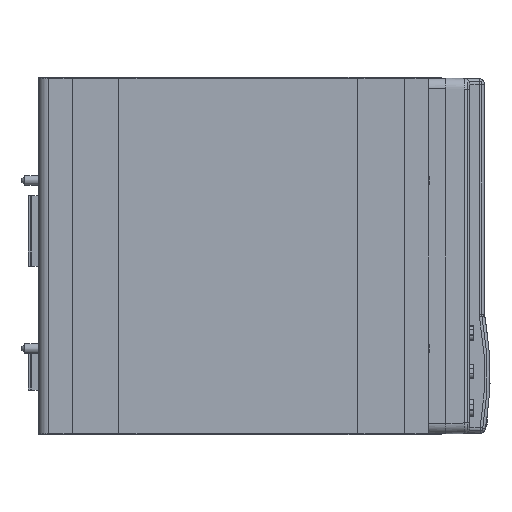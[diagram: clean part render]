
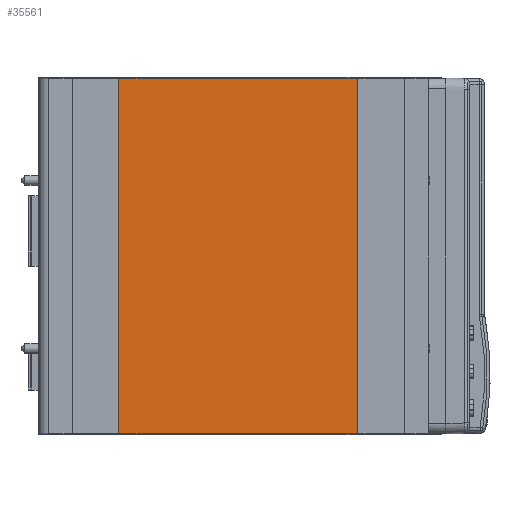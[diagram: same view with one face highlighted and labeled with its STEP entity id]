
A CAD part, front view. The second image highlights one B-rep face of the part: STEP entity #35561.
In plain terms, the highlighted planar face has unit normal (0, -1, 0).
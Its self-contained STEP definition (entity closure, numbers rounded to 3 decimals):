
#9961 = EDGE_LOOP ( 'NONE', ( #31388, #31391, #31390, #31393 ) ) ;
#28996 = EDGE_CURVE ( 'NONE', #40740, #40720, #72994, .T. ) ;
#28997 = EDGE_CURVE ( 'NONE', #40738, #40721, #72997, .T. ) ;
#31388 = ORIENTED_EDGE ( 'NONE', *, *, #28996, .F. ) ;
#31390 = ORIENTED_EDGE ( 'NONE', *, *, #28997, .T. ) ;
#31391 = ORIENTED_EDGE ( 'NONE', *, *, #36627, .F. ) ;
#31393 = ORIENTED_EDGE ( 'NONE', *, *, #36611, .T. ) ;
#35561 = ADVANCED_FACE ( 'NONE', ( #79274 ), #82617, .F. ) ;
#36611 = EDGE_CURVE ( 'NONE', #40721, #40720, #90513, .T. ) ;
#36627 = EDGE_CURVE ( 'NONE', #40738, #40740, #90561, .T. ) ;
#40720 = VERTEX_POINT ( 'NONE', #93689 ) ;
#40721 = VERTEX_POINT ( 'NONE', #93690 ) ;
#40738 = VERTEX_POINT ( 'NONE', #93705 ) ;
#40740 = VERTEX_POINT ( 'NONE', #93706 ) ;
#60267 = VECTOR ( 'NONE', #72996, 1000. ) ;
#60268 = VECTOR ( 'NONE', #72999, 1000. ) ;
#72994 = LINE ( 'NONE', #72995, #60267 ) ;
#72995 = CARTESIAN_POINT ( 'NONE',  ( -80.101, -151.733, -65.329 ) ) ;
#72996 = DIRECTION ( 'NONE',  ( 0., 0., 1. ) ) ;
#72997 = LINE ( 'NONE', #72998, #60268 ) ;
#72998 = CARTESIAN_POINT ( 'NONE',  ( 51.602, -151.733, -65.329 ) ) ;
#72999 = DIRECTION ( 'NONE',  ( 0., 0., 1. ) ) ;
#79274 = FACE_OUTER_BOUND ( 'NONE', #9961, .T. ) ;
#79279 = AXIS2_PLACEMENT_3D ( 'NONE', #82618, #82619, #82620 ) ;
#82617 = PLANE ( 'NONE',  #79279 ) ;
#82618 = CARTESIAN_POINT ( 'NONE',  ( 446.916, -151.733, 130.671 ) ) ;
#82619 = DIRECTION ( 'NONE',  ( 0., 1., 0. ) ) ;
#82620 = DIRECTION ( 'NONE',  ( 0., 0., 1. ) ) ;
#87153 = VECTOR ( 'NONE', #90515, 1000. ) ;
#87170 = VECTOR ( 'NONE', #90563, 1000. ) ;
#90513 = LINE ( 'NONE', #90514, #87153 ) ;
#90514 = CARTESIAN_POINT ( 'NONE',  ( 446.916, -151.733, 130.671 ) ) ;
#90515 = DIRECTION ( 'NONE',  ( -1., 0., 0. ) ) ;
#90561 = LINE ( 'NONE', #90562, #87170 ) ;
#90562 = CARTESIAN_POINT ( 'NONE',  ( 446.916, -151.733, -65.329 ) ) ;
#90563 = DIRECTION ( 'NONE',  ( -1., 0., 0. ) ) ;
#93689 = CARTESIAN_POINT ( 'NONE',  ( -80.101, -151.733, 130.671 ) ) ;
#93690 = CARTESIAN_POINT ( 'NONE',  ( 51.602, -151.733, 130.671 ) ) ;
#93705 = CARTESIAN_POINT ( 'NONE',  ( 51.602, -151.733, -65.329 ) ) ;
#93706 = CARTESIAN_POINT ( 'NONE',  ( -80.101, -151.733, -65.329 ) ) ;
